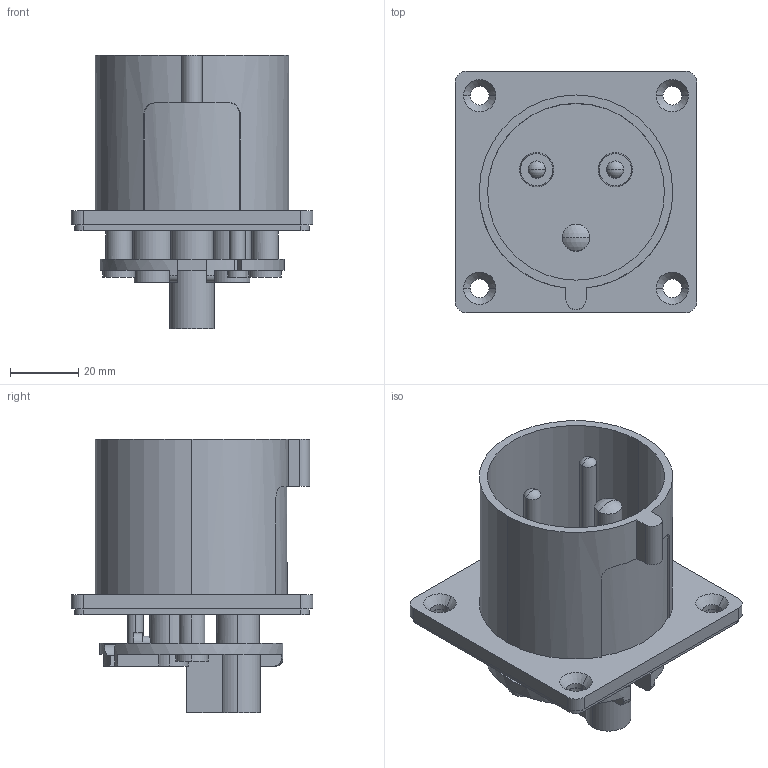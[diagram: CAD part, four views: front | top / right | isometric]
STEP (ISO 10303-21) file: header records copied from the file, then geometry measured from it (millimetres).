
FILE_DESCRIPTION (( 'STEP AP203' ), '1' );
FILE_NAME ('TLL32432.STEP', '2018-04-05T20:52:32', ( '' ), ( '' ), 'SwSTEP 2.0', 'SolidWorks 2012', '' );
FILE_SCHEMA (( 'CONFIG_CONTROL_DESIGN' ));
Length unit declared in the file: millimetre
Products named in the file (1): TLL32432
Bounding box: 70.7 x 70.7 x 79.86 mm (x, y, z)
Volume: 57349.2 mm3; surface area: 42589.6 mm2
Topology: 1 solids, 1 shells, 297 faces, 740 edges, 488 vertices
Faces by surface type: plane 146, cylinder 125, cone 16, sphere 6, bspline 2, torus 2
Entity records: 10092 total; most frequent: CARTESIAN_POINT 2657, DIRECTION 1587, ORIENTED_EDGE 1480, EDGE_CURVE 740, AXIS2_PLACEMENT_3D 583, VERTEX_POINT 488, VECTOR 421, LINE 421
